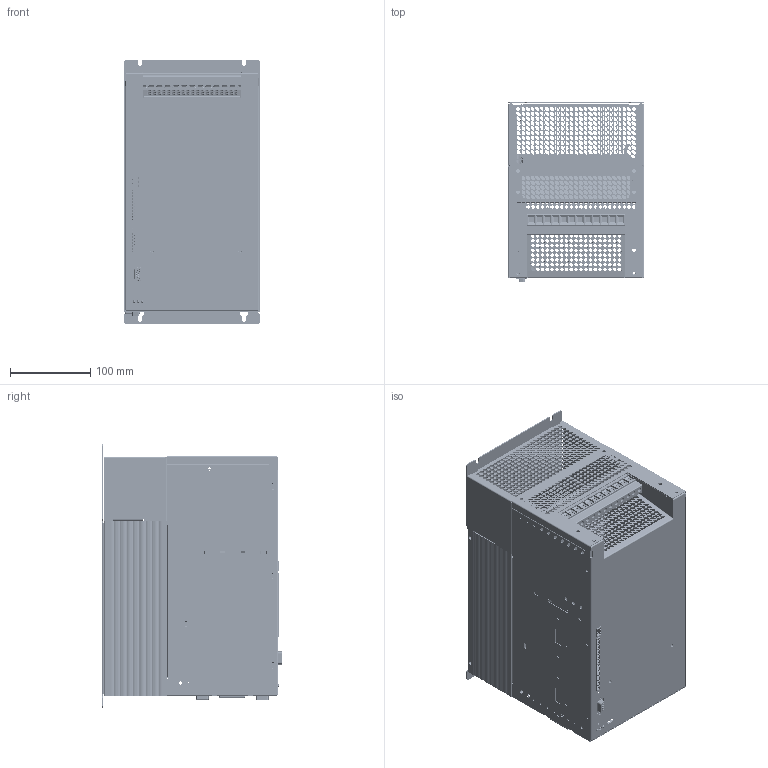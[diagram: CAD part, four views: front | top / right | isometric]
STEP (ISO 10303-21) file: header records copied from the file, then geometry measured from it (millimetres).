
FILE_DESCRIPTION (( 'STEP AP214' ), '1' );
FILE_NAME ('CDB34.024.W_34.032.W.STEP', '2010-09-20T13:33:27', ( 'Bereich' ), ( 'LTi DRiVES GmbH' ), 'SwSTEP 2.0', 'SolidWorks 2008', '' );
FILE_SCHEMA (( 'AUTOMOTIVE_DESIGN' ));
Length unit declared in the file: millimetre
Products named in the file (40): mkdsp_10n-3-10.16_Standard; mkdsp_10n-3-10.16; MSTBA_2.5-2-G(1)1_Standard; D_SUB_15POLIG_Standard; polig-Stift_Standard; 0896.514.1_Standard; 0896.501.0_Standard; MSTBA_2.5-2-G1_Standard; mc_1_5-10-g-3_81_Standard; Steuerprint CDB-1_Standard; 1001.546.0-1_Standard; 1001.546.0-1; Codierschalter_Standard; 0931.500.0-1_Standard; Drucktaster-105902-1_Standard; Drucktaster-105902; D-SUB 9polig 106256-1_Standard; D-SUB 9polig 106256; _U11_Standard; 0896.507.0; CDB34.024.W_34.032.W; _U39_Standard; _U6_Standard; _U7_Standard; BSO-M4-10-1_Standard; _U4_Standard; 0896.504.0; 0896.503.0_Standard; 1001.578.0; 0896.504.0_Standard; Einpreßmutter-M4-2_Standard; 0931.505.0; 0896.500.0_Standard; Self-clinching Nut_PMM_PEM S-M4-0 ZI--N; Steuerprint CDB-1; 0931.505.0_Standard; _U3-1_Standard; LED_3FACH_108455-1_Standard; LED_3FACH_108455; Steuerprint_Standard
Assembly tree (66 placements, depth 4):
  Steuerprint CDB-1_Standard
  0931.500.0-1_Standard
  CDB34.024.W_34.032.W
    0896.507.0
      _U6_Standard  x13
      _U7_Standard  x12
      _U11_Standard
      _U39_Standard
    0896.514.1_Standard
    0896.501.0_Standard
    0896.500.0_Standard
    mkdsp_10n-3-10.16_Standard  x3
    mkdsp_10n-3-10.16
      mkdsp_10n-3-10.16_Standard
    Steuerprint CDB-1
      1001.546.0-1
        1001.546.0-1_Standard
      Codierschalter_Standard  x2
      D-SUB 9polig 106256
        D-SUB 9polig 106256-1_Standard
      LED_3FACH_108455
        LED_3FACH_108455-1_Standard
      MSTBA_2.5-2-G(1)1_Standard
        MSTBA_2.5-2-G1_Standard
      Drucktaster-105902
        Drucktaster-105902-1_Standard
      mc_1_5-10-g-3_81_Standard  x2
      D_SUB_15POLIG_Standard
      polig-Stift_Standard
      Steuerprint_Standard
    0896.504.0
      _U4_Standard
    1001.578.0
      Self-clinching Nut_PMM_PEM S-M4-0 ZI--N  x6
      0896.503.0_Standard
    0931.505.0
      _U3-1_Standard
  BSO-M4-10-1_Standard
  0896.504.0_Standard
Bounding box: 170 x 225.6 x 330 mm (x, y, z)
Volume: 1418201.9 mm3; surface area: 1633634.8 mm2
Topology: 55 solids, 55 shells, 7865 faces, 21330 edges, 13919 vertices
Faces by surface type: plane 3868, bspline 2400, cylinder 1382, cone 181, sphere 18, torus 16
Entity records: 289026 total; most frequent: CARTESIAN_POINT 147669, ORIENTED_EDGE 30488, DIRECTION 18701, EDGE_CURVE 15244, VERTEX_POINT 9993, VECTOR 8479, LINE 8479, EDGE_LOOP 8279
